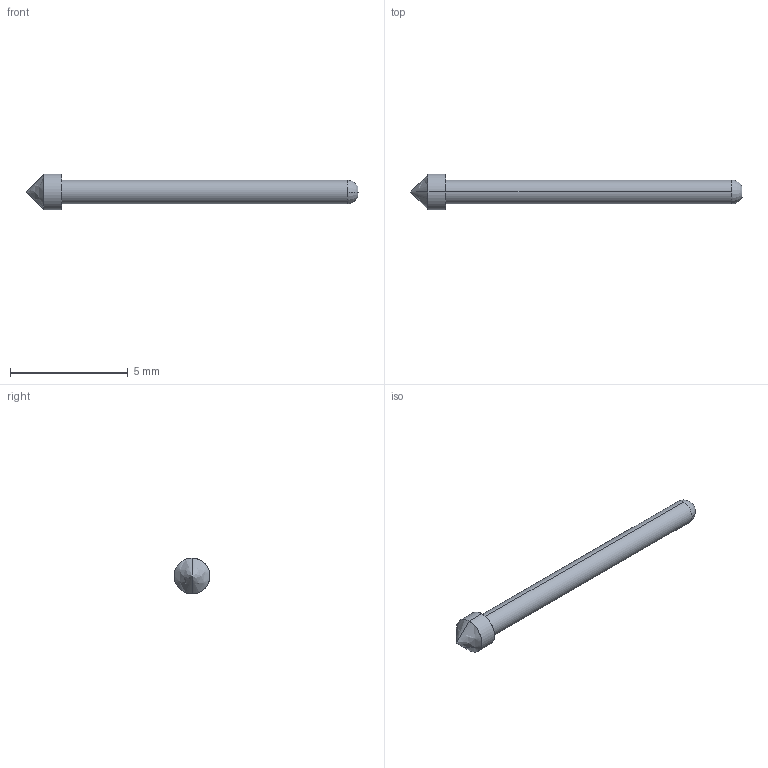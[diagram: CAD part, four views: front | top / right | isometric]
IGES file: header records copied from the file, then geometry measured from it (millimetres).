
Start section: SolidWorks IGES file using analytic representation for surfaces
Global section: file name: Z:\probe solid model mockups\Solidworks models\IGES Files\HPA-1\HPA-1E Full.IGS; native system: SolidWorks 2006 by SolidWorks Corporation; preprocessor: SolidWorks 2006 by SolidWorks Corporation; author: tsakatani; date: 071220.112056; units: inch
Bounding box: 14.1 x 1.52 x 1.52 mm (x, y, z)
Surface area: 47.5 mm2 (no closed solid volume)
Topology: 0 solids, 0 shells, 10 faces, 84 edges, 82 vertices
Faces by surface type: revolution 8, bspline 2
